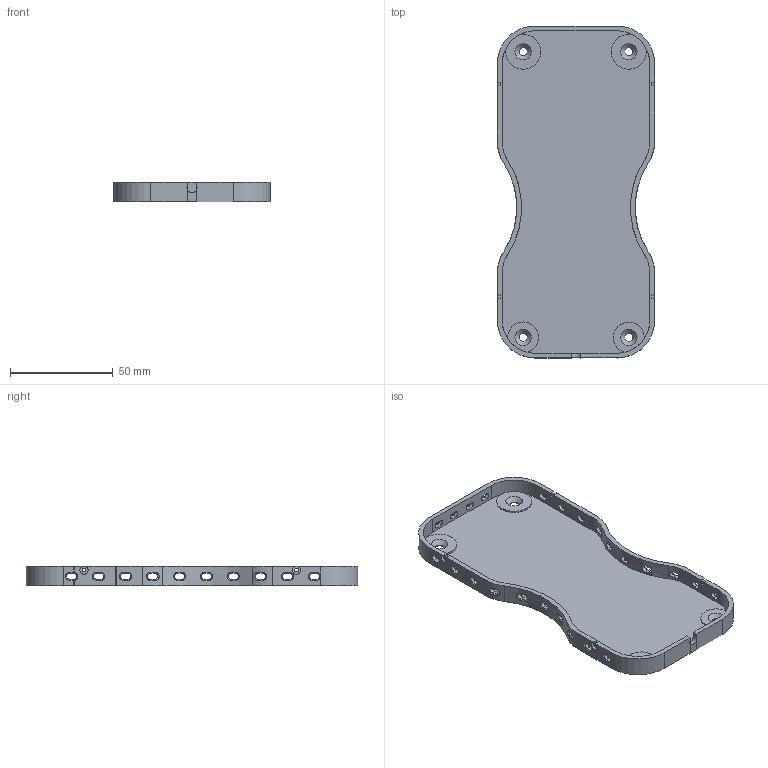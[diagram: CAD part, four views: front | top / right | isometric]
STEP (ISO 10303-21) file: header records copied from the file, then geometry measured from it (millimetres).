
FILE_DESCRIPTION(/* description */ (''),/* implementation_level */ '2;1');
FILE_NAME(/* name */ 'C:/Users/Heiko/Documents/cnc-Handrad.de/Downloads/Ladeschale normal/Ladeschale_Gehäuse.step',/* time_stamp */ '2021-05-21T11:46:43+02:00',/* author */ (''),/* organization */ (''),/* preprocessor_version */ 'ST-DEVELOPER v18.1',/* originating_system */ 'Autodesk Translation Framework v10.6.0.1341',/* authorisation */ '');
FILE_SCHEMA (('AUTOMOTIVE_DESIGN { 1 0 10303 214 3 1 1 }'));
Length unit declared in the file: millimetre
Products named in the file (4): Handrad Ladeschale; Komponente1; Komponente2; Komponente3
Assembly tree (3 placements, depth 4):
  Handrad Ladeschale
    Komponente1
      Komponente2
        Komponente3
Bounding box: 76.34 x 161.34 x 9.3 mm (x, y, z)
Volume: 24483 mm3; surface area: 30459.2 mm2
Topology: 1 solids, 1 shells, 273 faces, 716 edges, 442 vertices
Faces by surface type: cylinder 116, plane 81, torus 50, bspline 22, cone 4
Full cylindrical faces by diameter (mm): 1.8 x4, 4 x4
Entity records: 10244 total; most frequent: CARTESIAN_POINT 3241, DIRECTION 1504, ORIENTED_EDGE 1432, EDGE_CURVE 716, AXIS2_PLACEMENT_3D 598, VERTEX_POINT 442, CIRCLE 340, EDGE_LOOP 334
